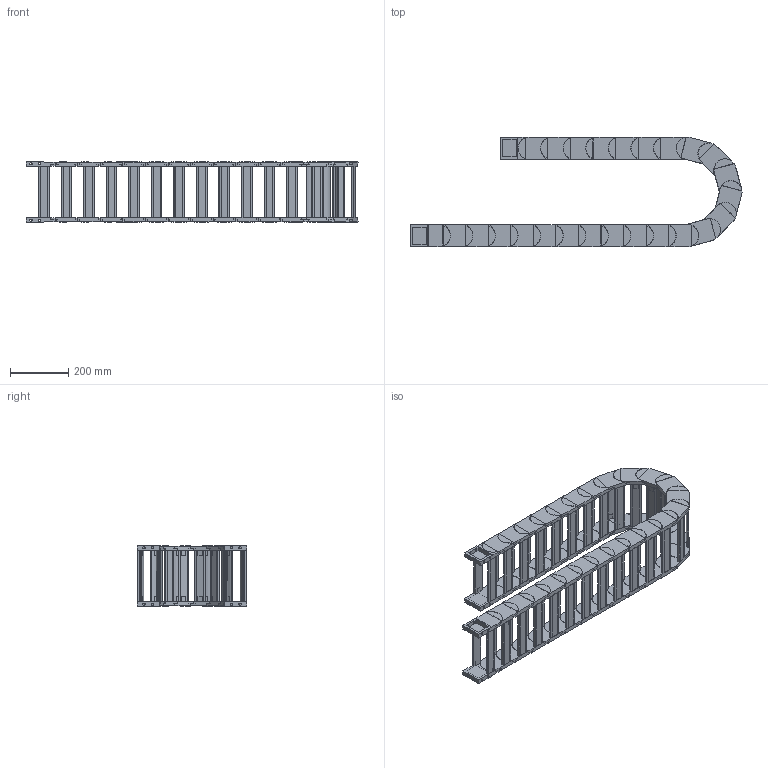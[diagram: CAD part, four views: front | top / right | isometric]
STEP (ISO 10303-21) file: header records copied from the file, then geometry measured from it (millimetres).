
FILE_DESCRIPTION((''),'2;1');
FILE_NAME('HD55-R150-ZPT_ASM','2022-06-17T18:45:00',('admin'),(''),'CREO PARAMETRIC BY PTC INC, 2021164','CREO PARAMETRIC BY PTC INC, 2021164','');
FILE_SCHEMA(('CONFIG_CONTROL_DESIGN','GEOMETRIC_VALIDATION_PROPERTIES_MIM'));
Length unit declared in the file: millimetre
Products named in the file (6): HD-55; 55-500001; HD55_ASM; H55-T1; H55-T2; HD55-R150-ZPT_ASM
Assembly tree (30 placements, depth 3):
  HD55-R150-ZPT_ASM
    HD55_ASM  x24
      HD-55
      55-500001
    H55-T1
    H55-T2
    55-500001  x2
Bounding box: 1139.56 x 376 x 207.6 mm (x, y, z)
Volume: 7296821.5 mm3; surface area: 2238955 mm2
Topology: 104 solids, 104 shells, 1726 faces, 4430 edges, 3020 vertices
Faces by surface type: plane 1424, cylinder 302
Entity records: 8783 total; most frequent: CARTESIAN_POINT 1296, DIRECTION 1258, ORIENTED_EDGE 1172, EDGE_CURVE 586, AXIS2_PLACEMENT_3D 420, VECTOR 418, LINE 418, VERTEX_POINT 396
